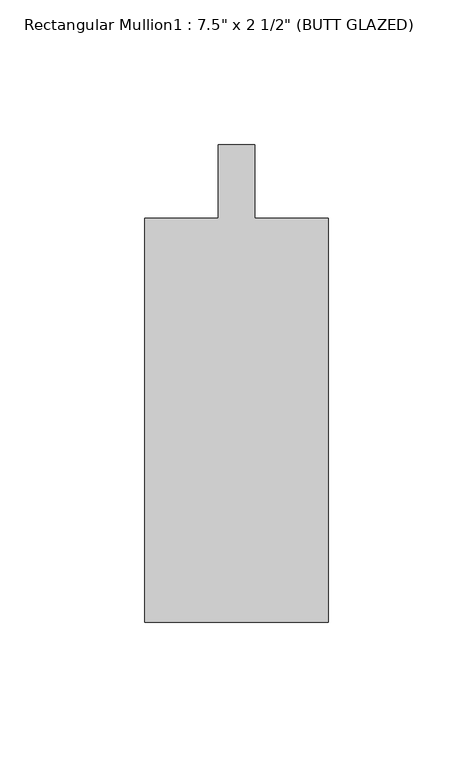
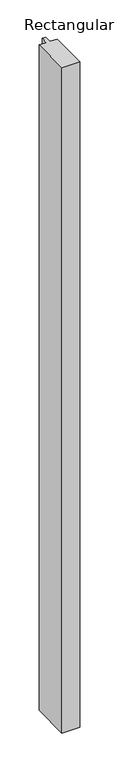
"""IFC4 building model written with IfcOpenShell, lengths in millimetres: member geometry."""

from ifc_helpers import new_model, si_unit, frame, origin, place, context, project, spatial, polyline, outline, extrude, source, transform, mapped, element, save


def member_5ddacac7(model_context):
    return source(origin(), model_context, "Body", "SweptSolid", [
        extrude(outline(polyline([(31.75, -165.1), (-31.75, -165.1), (-31.75, -25.4), (-6.35, -25.4), (-6.35, 0.0), (6.35, 0.0), (6.35, -25.4), (31.75, -25.4), (31.75, -165.1)])), frame((0.0, 0.0, -2482.85), z_axis=(0.0, 0.0, 1.0), x_axis=(1.0, 0.0, 0.0)), (0.0, 0.0, 1.0), 2482.85),
    ])


if __name__ == "__main__":
    model = new_model("IFC4")
    model_context = context("Model", 3, world=origin())
    ifc_project = project(units=[si_unit("LENGTHUNIT", "METRE", prefix="MILLI")], contexts=[model_context])
    site = spatial("IfcSite", under=ifc_project)
    building = spatial("IfcBuilding", under=site)
    placement = place(None, origin())
    member_shape = member_5ddacac7(model_context)
    element("IfcMember", 1, ObjectType="Rectangular Mullion1 : 7.5\" x 2 1/2\" (BUTT GLAZED)", at=placement, inside=building, context=model_context, shape_type="MappedRepresentation", body=[
        mapped(member_shape, transform((0.0, 0.0, 0.0), x_axis=(1.0, 0.0, 0.0), y_axis=(0.0, 1.0, 0.0), z_axis=(0.0, 0.0, 1.0))),
    ])
    save(model, "model.ifc")
